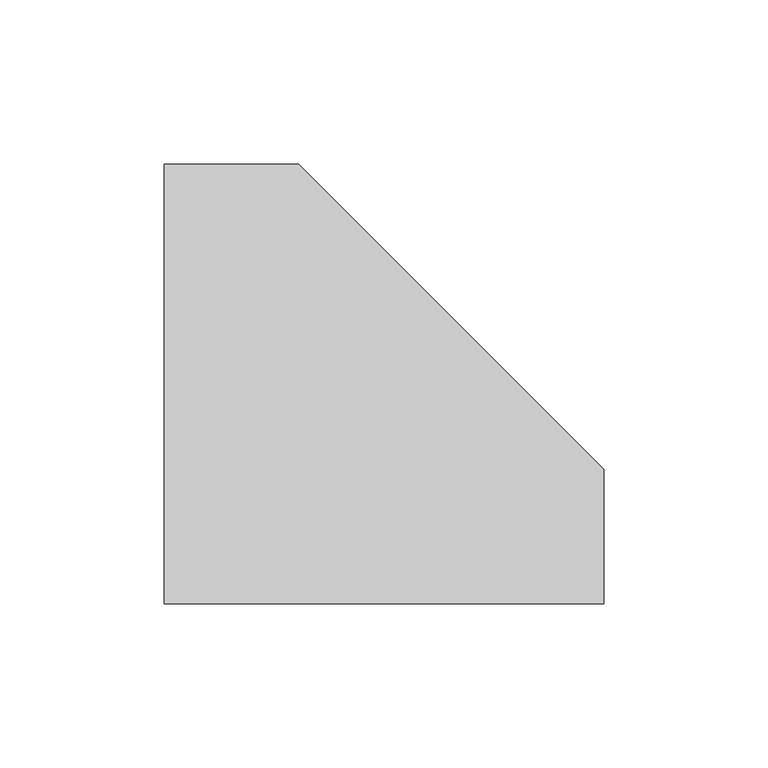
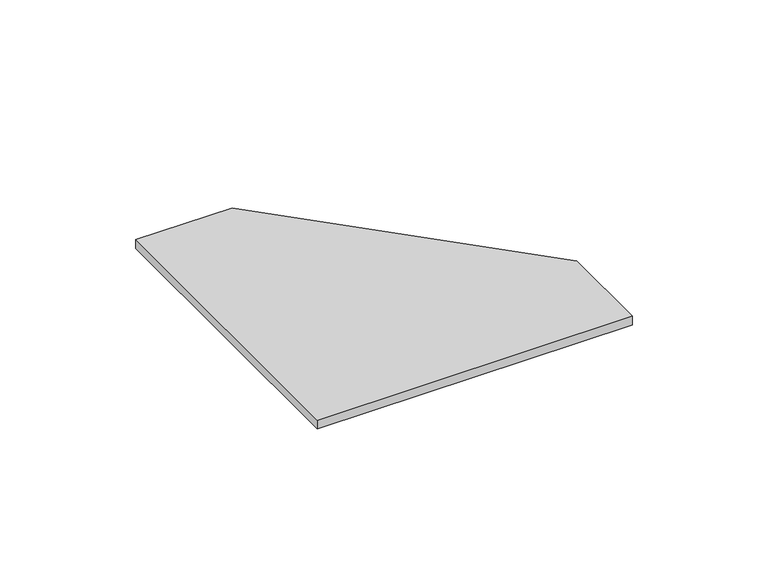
"""IFC4 building model written with IfcOpenShell, lengths in millimetres: proxy geometry, 4182M_Accessory-Basorfix : Basorfix 4182M GC70."""

from ifc_helpers import new_model, si_unit, origin, origin_with_axes, place, context, project, spatial, polyline, outline, extrude, source, transform, mapped, element, save


def generic_models_d394de58(model_context):
    return source(origin(), model_context, "Body", "SweptSolid", [
        extrude(outline(polyline([(67.0040181, -67.0), (-67.0040181, -67.0), (-67.0040181, 67.0), (-26.0040181, 67.0), (67.0040181, -26.0), (67.0040181, -67.0)])), origin_with_axes(), (0.0, 0.0, 1.0), 4.0),
    ])


if __name__ == "__main__":
    model = new_model("IFC4")
    model_context = context("Model", 3, world=origin())
    ifc_project = project(units=[si_unit("LENGTHUNIT", "METRE", prefix="MILLI")], contexts=[model_context])
    site = spatial("IfcSite", under=ifc_project)
    building = spatial("IfcBuilding", under=site)
    placement = place(None, origin())
    generic_models_shape = generic_models_d394de58(model_context)
    element("IfcBuildingElementProxy", 1, Name="4182M_Accessory-Basorfix : Basorfix 4182M GC70", ObjectType="4182M_Accessory-Basorfix : Basorfix 4182M GC70", at=placement, inside=building, context=model_context, shape_type="MappedRepresentation", body=[
        mapped(generic_models_shape, transform((0.0, 0.0, 0.0), x_axis=(1.0, 0.0, 0.0), y_axis=(0.0, 1.0, 0.0), z_axis=(0.0, 0.0, 1.0))),
    ])
    save(model, "model.ifc")
